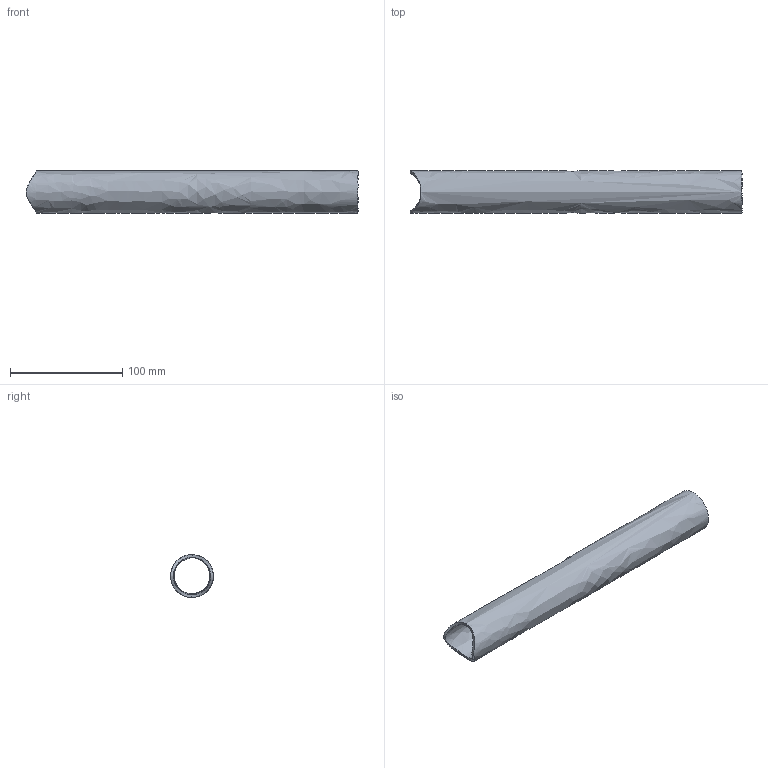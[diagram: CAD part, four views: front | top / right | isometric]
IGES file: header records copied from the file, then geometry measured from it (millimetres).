
Start section: TUBESHOP-BUNDLE-V1 eyJ0dWJlc2hvcCI6MSwia2luZCI6InR1YmVzaG9wLmJ1bmRsZSIsImFwcFZlcnNpb24iOiIx LjEwLjkiLCJuYW1lIjoiUVMxMDkgUXVpY2sgc3RhcnQgZGVtb25zdHJhdGlvbiIsInNvdXJj ZSI6ImZ1c2lvbiIsIm5vdGUiOiIiLCJzdGFtcCI6MTc5MzAyOTQyMSwiY291bnQiOjEsInR1 YmVzIjpbeyJpZCI6IkkxIEltcG9ydGVkIGNvcGVkIGJyYWNlIiwibmFtZSI6IkkxIEltcG9y dGVkIGNvcGVkIGJyYWNlIiwib2QiOjEuNSwid2FsbCI6MC4wOTUsInNlY3Rpb24iOnsia2lu ZCI6InJvdW5kIiwi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
Global section: file name: I1 Imported coped brace_developed; native system: unknown; preprocessor: unknown; author: unknown; organization: unknown; date: 20261026.114345; units: inch
Bounding box: 295.42 x 38.1 x 38.1 mm (x, y, z)
Volume: 76431.4 mm3; surface area: 65202.9 mm2
Topology: 1 solids, 1 shells, 5 faces, 14 edges, 10 vertices
Faces by surface type: bspline 5
